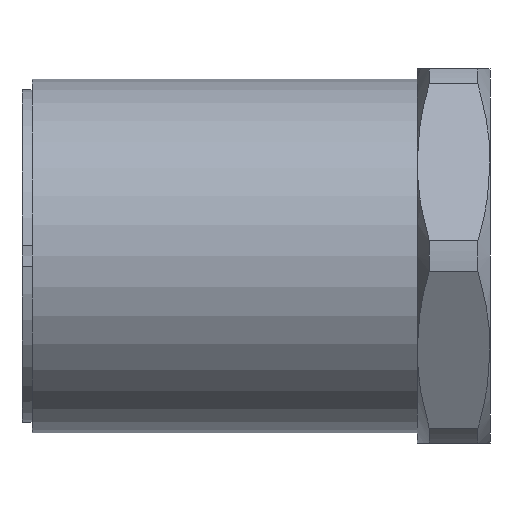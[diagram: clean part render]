
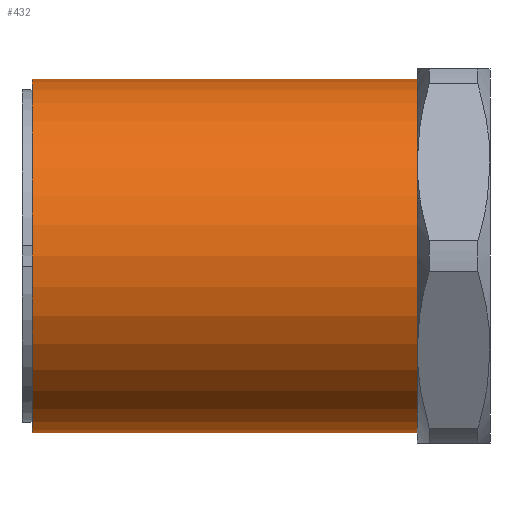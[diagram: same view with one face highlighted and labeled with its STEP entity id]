
A CAD part, front view. The second image highlights one B-rep face of the part: STEP entity #432.
In plain terms, the highlighted cylindrical face has radius 8.5 mm (diameter 17 mm), a partial arc.
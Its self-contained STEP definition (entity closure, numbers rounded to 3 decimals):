
#127 = CARTESIAN_POINT ( 'NONE',  ( 0., 0., 0. ) ) ;
#128 = DIRECTION ( 'NONE',  ( -1., 0., 0. ) ) ;
#132 = DIRECTION ( 'NONE',  ( 0., 0., 1. ) ) ;
#168 = CARTESIAN_POINT ( 'NONE',  ( 18.5, 0., -8.5 ) ) ;
#169 = CARTESIAN_POINT ( 'NONE',  ( 0., 0., -8.5 ) ) ;
#171 = CARTESIAN_POINT ( 'NONE',  ( 18.5, 0., 8.5 ) ) ;
#172 = CARTESIAN_POINT ( 'NONE',  ( 0., 0., 8.5 ) ) ;
#381 = VERTEX_POINT ( 'NONE', #172 ) ;
#382 = VERTEX_POINT ( 'NONE', #171 ) ;
#384 = VERTEX_POINT ( 'NONE', #169 ) ;
#385 = VERTEX_POINT ( 'NONE', #168 ) ;
#411 = AXIS2_PLACEMENT_3D ( 'NONE', #127, #128, #132 ) ;
#432 = ADVANCED_FACE ( 'NONE', ( #930 ), #939, .T. ) ;
#586 = CARTESIAN_POINT ( 'NONE',  ( 0., 0., 0. ) ) ;
#587 = DIRECTION ( 'NONE',  ( -1., 0., 0. ) ) ;
#594 = CARTESIAN_POINT ( 'NONE',  ( 0., 0., 8.5 ) ) ;
#595 = DIRECTION ( 'NONE',  ( -1., 0., 0. ) ) ;
#596 = DIRECTION ( 'NONE',  ( -1., 0., 0. ) ) ;
#597 = DIRECTION ( 'NONE',  ( 0., 0., 1. ) ) ;
#930 = FACE_OUTER_BOUND ( 'NONE', #1227, .T. ) ;
#939 = CYLINDRICAL_SURFACE ( 'NONE', #411, 8.5 ) ;
#1022 = CIRCLE ( 'NONE', #1160, 8.5 ) ;
#1025 = LINE ( 'NONE', #1493, #1027 ) ;
#1027 = VECTOR ( 'NONE', #587, 1000. ) ;
#1032 = LINE ( 'NONE', #594, #1033 ) ;
#1033 = VECTOR ( 'NONE', #595, 1000. ) ;
#1036 = CIRCLE ( 'NONE', #1158, 8.5 ) ;
#1158 = AXIS2_PLACEMENT_3D ( 'NONE', #586, #596, #597 ) ;
#1160 = AXIS2_PLACEMENT_3D ( 'NONE', #1507, #1497, #1496 ) ;
#1227 = EDGE_LOOP ( 'NONE', ( #1288, #1272, #1273, #1320 ) ) ;
#1272 = ORIENTED_EDGE ( 'NONE', *, *, #1518, .T. ) ;
#1273 = ORIENTED_EDGE ( 'NONE', *, *, #1525, .T. ) ;
#1288 = ORIENTED_EDGE ( 'NONE', *, *, #1522, .F. ) ;
#1320 = ORIENTED_EDGE ( 'NONE', *, *, #1526, .F. ) ;
#1493 = CARTESIAN_POINT ( 'NONE',  ( 0., 0., -8.5 ) ) ;
#1496 = DIRECTION ( 'NONE',  ( 0., 0., 1. ) ) ;
#1497 = DIRECTION ( 'NONE',  ( -1., 0., 0. ) ) ;
#1507 = CARTESIAN_POINT ( 'NONE',  ( 18.5, 0., 0. ) ) ;
#1518 = EDGE_CURVE ( 'NONE', #385, #382, #1022, .T. ) ;
#1522 = EDGE_CURVE ( 'NONE', #385, #384, #1025, .T. ) ;
#1525 = EDGE_CURVE ( 'NONE', #382, #381, #1032, .T. ) ;
#1526 = EDGE_CURVE ( 'NONE', #384, #381, #1036, .T. ) ;
